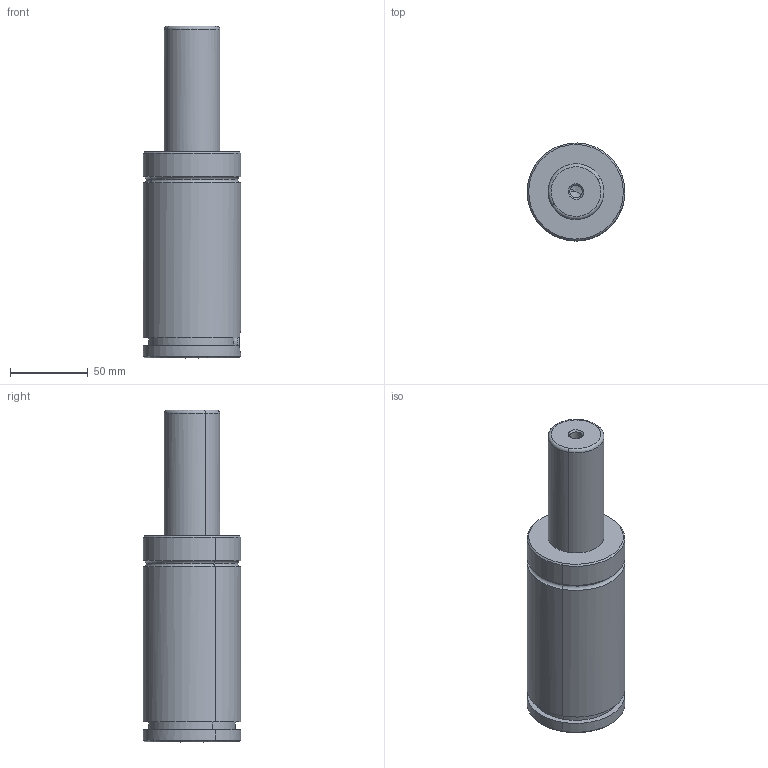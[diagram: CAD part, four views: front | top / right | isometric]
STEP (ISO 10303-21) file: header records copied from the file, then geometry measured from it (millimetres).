
FILE_DESCRIPTION(('FreeCAD Model'),'2;1');
FILE_NAME('Open CASCADE Shape Model','2024-11-12T11:58:25',('Author'),( ''),'Open CASCADE STEP processor 7.6','FreeCAD','Unknown');
FILE_SCHEMA(('AUTOMOTIVE_DESIGN { 1 0 10303 214 1 1 1 1 }'));
Length unit declared in the file: millimetre
Products named in the file (2): Part001; Cut
Assembly tree (1 placements, depth 2):
  Part001
    Cut
Bounding box: 62.99 x 62.98 x 214 mm (x, y, z)
Volume: 488320.6 mm3; surface area: 47693.2 mm2
Topology: 3 solids, 3 shells, 109 faces, 232 edges, 132 vertices
Faces by surface type: cone 48, cylinder 31, plane 22, torus 8
Full cylindrical faces by diameter (mm): 8 x4
Entity records: 3567 total; most frequent: CARTESIAN_POINT 1270, DIRECTION 468, ORIENTED_EDGE 448, EDGE_CURVE 224, AXIS2_PLACEMENT_3D 187, VERTEX_POINT 132, FACE_BOUND 120, EDGE_LOOP 120
